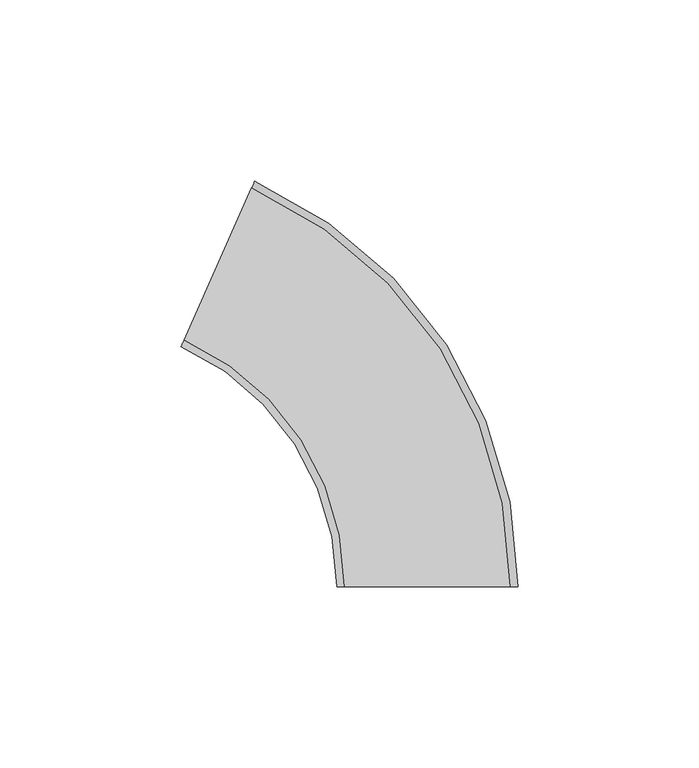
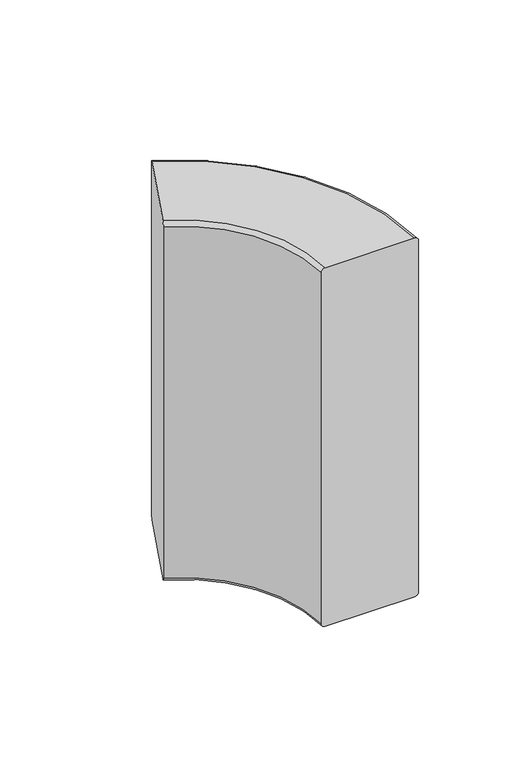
"""IFC4 building model written with IfcOpenShell, lengths in millimetres: duct fitting geometry, Угол внешний переменный от 60° до 120° - для кабель-каналов - белый : Угол внешний переменный от 60° до 120° - для кабель-каналов DLP 65х150/195 - 1 секция - белый."""

from ifc_helpers import new_model, si_unit, point, frame, origin, place, context, project, spatial, polyline, circle_curve, ellipse_curve, trimmed, source, transform, mapped, element, save
from ifc_brep_helpers import plane_surface, cylinder_surface, revolved_surface, advanced_brep


def duct_fitting_17a0b45b(model_context):
    return source(origin(), model_context, "Body", "AdvancedBrep", [
        advanced_brep(
        [(-23.0, 0.0, 97.5), (-25.0, 0.0, 95.5), (-25.0, 0.0, -95.5), (-23.0, 0.0, -97.5), (23.0, 0.0, -97.5), (25.0, 0.0, -95.5), (25.0, 0.0, 95.5), (23.0, 0.0, 97.5), (-67.1981201, 68.0591366, 97.5), (-48.4882345, 110.0822276, 97.5), (-47.6747612, 111.9093186, 95.5), (-47.6747612, 111.9093186, -95.5), (-48.4882345, 110.0822276, -97.5), (-67.1981201, 68.0591366, -97.5), (-68.0115934, 66.2320457, -95.5), (-68.0115934, 66.2320457, 95.5)],
        [
            (0, 1, circle_curve(frame((-23.0, 0.0, 95.5), z_axis=(0.0, -1.0, 0.0), x_axis=(-1.0, 0.0, 0.0)), 2.0)),
            (1, 2),
            (2, 3, circle_curve(frame((-23.0, 0.0, -95.5), z_axis=(0.0, -1.0, 0.0), x_axis=(-1.0, 0.0, 0.0)), 2.0)),
            (3, 4),
            (4, 5, circle_curve(frame((23.0, 0.0, -95.5), z_axis=(0.0, -1.0, 0.0), x_axis=(-1.0, 0.0, 0.0)), 2.0)),
            (5, 6),
            (6, 7, circle_curve(frame((23.0, 0.0, 95.5), z_axis=(0.0, -1.0, 0.0), x_axis=(-1.0, 0.0, 0.0)), 2.0)),
            (7, 0),
            (8, 9),
            (9, 10, circle_curve(frame((-48.4882345, 110.0822276, 95.5), z_axis=(-0.913545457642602, 0.40673664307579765, 0.0), x_axis=(-0.40673664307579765, -0.913545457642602, 0.0)), 2.0)),
            (10, 11),
            (11, 12, circle_curve(frame((-48.4882345, 110.0822276, -95.5), z_axis=(-0.913545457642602, 0.40673664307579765, 0.0), x_axis=(-0.40673664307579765, -0.913545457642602, 0.0)), 2.0)),
            (12, 13),
            (13, 14, circle_curve(frame((-67.1981201, 68.0591366, -95.5), z_axis=(-0.913545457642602, 0.40673664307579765, 0.0), x_axis=(-0.40673664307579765, -0.913545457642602, 0.0)), 2.0)),
            (14, 15),
            (15, 8, circle_curve(frame((-67.1981201, 68.0591366, 95.5), z_axis=(-0.913545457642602, 0.40673664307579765, 0.0), x_axis=(-0.40673664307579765, -0.913545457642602, 0.0)), 2.0)),
            (15, 1, circle_curve(frame((-97.5, 0.0, 95.5), z_axis=(0.0, 0.0, -1.0), x_axis=(1.0, 0.0, 0.0)), 72.5)),
            (0, 8, circle_curve(frame((-97.5, 0.0, 97.5), z_axis=(0.0, 0.0, 1.0), x_axis=(1.0, 0.0, 0.0)), 74.5)),
            (14, 2, circle_curve(frame((-97.5, 0.0, -95.5), z_axis=(0.0, 0.0, -1.0), x_axis=(1.0, 0.0, 0.0)), 72.5)),
            (13, 3, circle_curve(frame((-97.5, 0.0, -97.5), z_axis=(0.0, 0.0, -1.0), x_axis=(1.0, 0.0, 0.0)), 74.5)),
            (12, 4, circle_curve(frame((-97.5, 0.0, -97.5), z_axis=(0.0, 0.0, -1.0), x_axis=(1.0, 0.0, 0.0)), 120.5)),
            (11, 5, circle_curve(frame((-97.5, 0.0, -95.5), z_axis=(0.0, 0.0, -1.0), x_axis=(1.0, 0.0, 0.0)), 122.5)),
            (10, 6, circle_curve(frame((-97.5, 0.0, 95.5), z_axis=(0.0, 0.0, -1.0), x_axis=(1.0, 0.0, 0.0)), 122.5)),
            (9, 7, circle_curve(frame((-97.5, 0.0, 97.5), z_axis=(0.0, 0.0, -1.0), x_axis=(1.0, 0.0, 0.0)), 120.5)),
        ],
        [
            plane_surface(frame((0.0, 0.0, 0.0), z_axis=(0.0, -1.0, 0.0), x_axis=(0.0, 0.0, 1.0))),
            plane_surface(frame((-57.8431773, 89.0706821, 0.0), z_axis=(-0.913545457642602, 0.4067366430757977, 0.0), x_axis=(0.0, 0.0, 1.0))),
            revolved_surface(trimmed(ellipse_curve(frame((-23.0, 0.0, 95.5), z_axis=(0.0, -1.0, 0.0), x_axis=(-1.0, 0.0, 0.0)), 2.0, 2.0), [point((-23.0, 0.0, 97.5))], [point((-25.0, 0.0, 95.5))], True, "CARTESIAN"), (-97.5, 0.0, 0.0), (0.0, 0.0, 1.0)),
            revolved_surface(polyline([(-25.0, 0.0, 95.5), (-25.0, 0.0, -95.5)]), (-97.5, 0.0, 0.0), (0.0, 0.0, 1.0)),
            revolved_surface(trimmed(ellipse_curve(frame((-23.0, 0.0, -95.5), z_axis=(0.0, -1.0, 0.0), x_axis=(-1.0, 0.0, 0.0)), 2.0, 2.0), [point((-25.0, 0.0, -95.5))], [point((-23.0, 0.0, -97.5))], True, "CARTESIAN"), (-97.5, 0.0, 0.0), (0.0, 0.0, 1.0)),
            plane_surface(frame((-97.5, 0.0, -97.5), z_axis=(0.0, 0.0, -1.0), x_axis=(1.0, 0.0, 0.0))),
            revolved_surface(trimmed(ellipse_curve(frame((23.0, 0.0, -95.5), z_axis=(0.0, -1.0, 0.0), x_axis=(-1.0, 0.0, 0.0)), 2.0, 2.0), [point((23.0, 0.0, -97.5))], [point((25.0, 0.0, -95.5))], True, "CARTESIAN"), (-97.5, 0.0, 0.0), (0.0, 0.0, 1.0)),
            cylinder_surface(frame((-97.5, 0.0, 0.0), z_axis=(0.0, 0.0, 1.0), x_axis=(1.0, 0.0, 0.0)), 122.5),
            revolved_surface(trimmed(ellipse_curve(frame((23.0, 0.0, 95.5), z_axis=(0.0, -1.0, 0.0), x_axis=(-1.0, 0.0, 0.0)), 2.0, 2.0), [point((25.0, 0.0, 95.5))], [point((23.0, 0.0, 97.5))], True, "CARTESIAN"), (-97.5, 0.0, 0.0), (0.0, 0.0, 1.0)),
            plane_surface(frame((-97.5, 0.0, 97.5), z_axis=(0.0, 0.0, 1.0), x_axis=(1.0, 0.0, 0.0))),
        ],
        [
            (0, [[1, 2, 3, 4, 5, 6, 7, 8]]),
            (1, [[9, 10, 11, 12, 13, 14, 15, 16]]),
            (2, [[17, -1, 18, -16]]),
            (3, [[19, -2, -17, -15]]),
            (4, [[20, -3, -19, -14]]),
            (5, [[21, -4, -20, -13]]),
            (6, [[22, -5, -21, -12]]),
            (7, [[23, -6, -22, -11]]),
            (8, [[24, -7, -23, -10]]),
            (9, [[-18, -8, -24, -9]]),
        ],
    ),
    ])


if __name__ == "__main__":
    model = new_model("IFC4")
    model_context = context("Model", 3, world=origin())
    ifc_project = project(units=[si_unit("LENGTHUNIT", "METRE", prefix="MILLI")], contexts=[model_context])
    site = spatial("IfcSite", under=ifc_project)
    building = spatial("IfcBuilding", under=site)
    placement = place(None, origin())
    duct_fitting_shape = duct_fitting_17a0b45b(model_context)
    element("IfcDuctFitting", 1, ObjectType="Угол внешний переменный от 60° до 120° - для кабель-каналов - белый : Угол внешний переменный от 60° до 120° - для кабель-каналов DLP 65х150/195 - 1 секция - белый", at=placement, inside=building, context=model_context, shape_type="MappedRepresentation", body=[
        mapped(duct_fitting_shape, transform((0.0, 0.0, 0.0), x_axis=(1.0, 0.0, 0.0), y_axis=(0.0, 1.0, 0.0), z_axis=(0.0, 0.0, 1.0))),
    ])
    save(model, "model.ifc")
